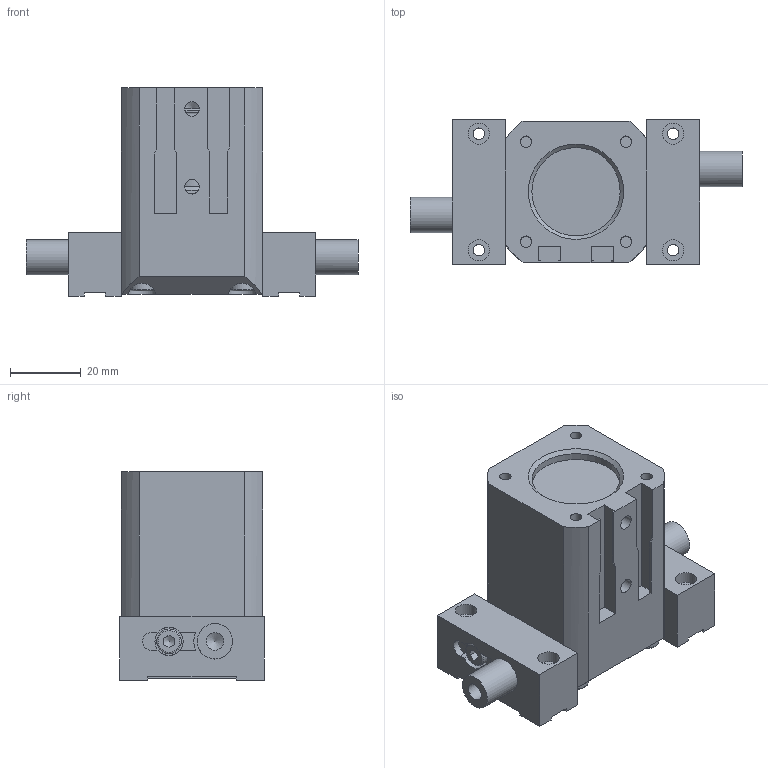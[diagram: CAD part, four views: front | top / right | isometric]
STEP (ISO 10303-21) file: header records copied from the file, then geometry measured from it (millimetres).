
FILE_DESCRIPTION((''),'2;1');
FILE_NAME('T:\CAD\Standard\Daten\3D-Datenbank\GP\GP050\step-Daten\G-GP050-l2-O+UB closed.stp','2012-12-07T08:12:23',('dirk'),(''),'Autodesk Inventor 2011','Autodesk Inventor 2011','');
FILE_SCHEMA(('AUTOMOTIVE_DESIGN { 1 0 10303 214 1 1 1 1 }'));
Length unit declared in the file: millimetre
Products named in the file (3): Baugruppe1; G-GP050-l2-GÖ- Gehäuse; G-GP050-l2-GÖ-Bolzen2
Assembly tree (3 placements, depth 2):
  Baugruppe1
    G-GP050-l2-GÖ- Gehäuse
    G-GP050-l2-GÖ-Bolzen2  x2
Bounding box: 94 x 41 x 59 mm (x, y, z)
Volume: 94974.8 mm3; surface area: 43526.9 mm2
Topology: 3 solids, 21 shells, 401 faces, 984 edges, 640 vertices
Faces by surface type: plane 226, cylinder 115, cone 34, torus 26
Full cylindrical faces by diameter (mm): 2.459 x2, 3.242 x10, 4 x6, 4.134 x2, 4.3 x4, 4.5 x2, 4.917 x1, 5 x2, 6 x5, 6.4 x1, 7 x6, 8 x8, 10 x8, 12 x8, 14 x1, 15 x2, 17 x2, 20 x1, 23 x2, 23.6 x2, 25 x1, 27 x1, 27.1 x2, 30 x5
Entity records: 9295 total; most frequent: CARTESIAN_POINT 1994, DIRECTION 1444, ORIENTED_EDGE 1202, EDGE_CURVE 601, AXIS2_PLACEMENT_3D 579, EDGE_LOOP 524, VERTEX_POINT 449, STYLED_ITEM 328
